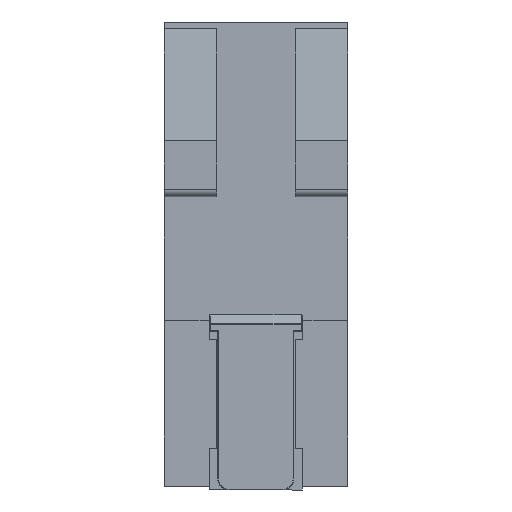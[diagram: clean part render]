
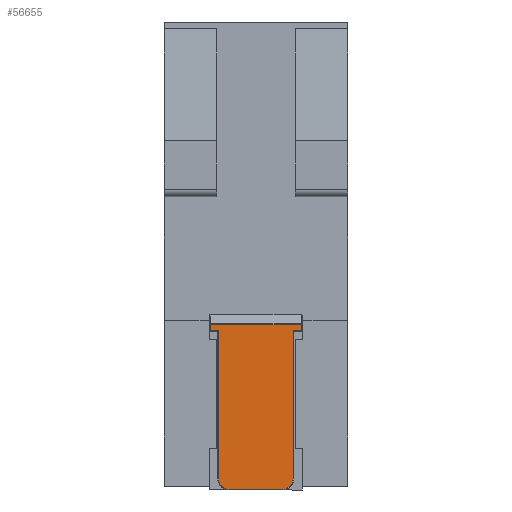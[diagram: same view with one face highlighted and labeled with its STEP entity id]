
A CAD part, left-side view. The second image highlights one B-rep face of the part: STEP entity #56655.
In plain terms, the highlighted planar face has unit normal (-1, 0, 0) as drawn and (0, 1, 0) by its records, which use the part's own axes.
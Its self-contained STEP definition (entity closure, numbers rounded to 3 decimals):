
#268 = CARTESIAN_POINT ( 'NONE',  ( 9.95, 5., 42.5 ) ) ;
#2877 = CARTESIAN_POINT ( 'NONE',  ( -12.15, 5., 44.206 ) ) ;
#3549 = VERTEX_POINT ( 'NONE', #60133 ) ;
#4268 = DIRECTION ( 'NONE',  ( 0., -1., 0. ) ) ;
#5672 = FACE_OUTER_BOUND ( 'NONE', #55004, .T. ) ;
#6671 = DIRECTION ( 'NONE',  ( 0., 0., 1. ) ) ;
#7783 = CARTESIAN_POINT ( 'NONE',  ( 9.95, 5., 3. ) ) ;
#9084 = VERTEX_POINT ( 'NONE', #54608 ) ;
#9314 = DIRECTION ( 'NONE',  ( 0., 0., -1. ) ) ;
#9492 = VECTOR ( 'NONE', #66858, 1000. ) ;
#9709 = CARTESIAN_POINT ( 'NONE',  ( 12.15, 5., 42.5 ) ) ;
#9967 = DIRECTION ( 'NONE',  ( -0.707, 0., -0.707 ) ) ;
#11128 = CARTESIAN_POINT ( 'NONE',  ( 12.15, 5., 44.206 ) ) ;
#11405 = CIRCLE ( 'NONE', #64725, 2.8 ) ;
#12865 = VECTOR ( 'NONE', #6671, 1000. ) ;
#12954 = EDGE_CURVE ( 'NONE', #56874, #3549, #51718, .T. ) ;
#13393 = ORIENTED_EDGE ( 'NONE', *, *, #43184, .F. ) ;
#13814 = CARTESIAN_POINT ( 'NONE',  ( -9.95, 5., 42.5 ) ) ;
#17744 = EDGE_CURVE ( 'NONE', #27331, #32291, #51514, .T. ) ;
#21473 = DIRECTION ( 'NONE',  ( 0.707, 0., -0.707 ) ) ;
#21811 = CARTESIAN_POINT ( 'NONE',  ( -7.15, 5., 0.2 ) ) ;
#22111 = LINE ( 'NONE', #45273, #9492 ) ;
#23396 = DIRECTION ( 'NONE',  ( 1., 0., 0. ) ) ;
#26331 = CARTESIAN_POINT ( 'NONE',  ( -9.95, 5., 3. ) ) ;
#27331 = VERTEX_POINT ( 'NONE', #51437 ) ;
#29747 = AXIS2_PLACEMENT_3D ( 'NONE', #63694, #53057, #65164 ) ;
#30661 = EDGE_CURVE ( 'NONE', #46734, #27331, #33603, .T. ) ;
#30701 = CARTESIAN_POINT ( 'NONE',  ( 12.15, 5., 42.5 ) ) ;
#31729 = LINE ( 'NONE', #2877, #53570 ) ;
#32291 = VERTEX_POINT ( 'NONE', #73738 ) ;
#32541 = VECTOR ( 'NONE', #57086, 1000. ) ;
#33035 = EDGE_CURVE ( 'NONE', #3549, #45260, #31729, .T. ) ;
#33603 = LINE ( 'NONE', #21811, #72690 ) ;
#34473 = DIRECTION ( 'NONE',  ( 0., 0., -1. ) ) ;
#34693 = ORIENTED_EDGE ( 'NONE', *, *, #67112, .F. ) ;
#35070 = EDGE_CURVE ( 'NONE', #36465, #67925, #69298, .T. ) ;
#35760 = AXIS2_PLACEMENT_3D ( 'NONE', #62782, #68443, #21473 ) ;
#36465 = VERTEX_POINT ( 'NONE', #13814 ) ;
#37943 = EDGE_CURVE ( 'NONE', #32291, #9084, #65429, .T. ) ;
#38134 = ORIENTED_EDGE ( 'NONE', *, *, #12954, .F. ) ;
#39628 = EDGE_CURVE ( 'NONE', #9084, #58365, #52232, .T. ) ;
#41100 = DIRECTION ( 'NONE',  ( -1., 0., 0. ) ) ;
#42826 = EDGE_CURVE ( 'NONE', #58365, #56874, #73744, .T. ) ;
#43184 = EDGE_CURVE ( 'NONE', #45260, #36465, #22111, .T. ) ;
#43873 = CARTESIAN_POINT ( 'NONE',  ( -7.15, 5., 0.2 ) ) ;
#44862 = CARTESIAN_POINT ( 'NONE',  ( -7.15, 5., 3. ) ) ;
#45260 = VERTEX_POINT ( 'NONE', #74097 ) ;
#45273 = CARTESIAN_POINT ( 'NONE',  ( -12.15, 5., 42.5 ) ) ;
#45724 = DIRECTION ( 'NONE',  ( 1., 0., 0. ) ) ;
#46734 = VERTEX_POINT ( 'NONE', #43873 ) ;
#46995 = ORIENTED_EDGE ( 'NONE', *, *, #42826, .F. ) ;
#49067 = ORIENTED_EDGE ( 'NONE', *, *, #37943, .F. ) ;
#51437 = CARTESIAN_POINT ( 'NONE',  ( 7.15, 5., 0.2 ) ) ;
#51514 = CIRCLE ( 'NONE', #35760, 2.8 ) ;
#51718 = LINE ( 'NONE', #11128, #69969 ) ;
#52232 = LINE ( 'NONE', #268, #63689 ) ;
#52905 = ORIENTED_EDGE ( 'NONE', *, *, #30661, .F. ) ;
#53057 = DIRECTION ( 'NONE',  ( 0., 1., 0. ) ) ;
#53570 = VECTOR ( 'NONE', #9314, 1000. ) ;
#53738 = ORIENTED_EDGE ( 'NONE', *, *, #33035, .F. ) ;
#54608 = CARTESIAN_POINT ( 'NONE',  ( 9.95, 5., 42.5 ) ) ;
#55004 = EDGE_LOOP ( 'NONE', ( #53738, #38134, #46995, #70353, #49067, #60660, #52905, #34693, #73034, #13393 ) ) ;
#56655 = ADVANCED_FACE ( 'NONE', ( #5672 ), #64066, .T. ) ;
#56874 = VERTEX_POINT ( 'NONE', #70625 ) ;
#57086 = DIRECTION ( 'NONE',  ( 0., 0., 1. ) ) ;
#58365 = VERTEX_POINT ( 'NONE', #30701 ) ;
#60133 = CARTESIAN_POINT ( 'NONE',  ( -12.15, 5., 44.206 ) ) ;
#60660 = ORIENTED_EDGE ( 'NONE', *, *, #17744, .F. ) ;
#62782 = CARTESIAN_POINT ( 'NONE',  ( 7.15, 5., 3. ) ) ;
#63255 = CARTESIAN_POINT ( 'NONE',  ( -9.95, 5., 42.5 ) ) ;
#63689 = VECTOR ( 'NONE', #23396, 1000. ) ;
#63694 = CARTESIAN_POINT ( 'NONE',  ( 0., 5., 0. ) ) ;
#64066 = PLANE ( 'NONE',  #29747 ) ;
#64725 = AXIS2_PLACEMENT_3D ( 'NONE', #44862, #4268, #9967 ) ;
#65164 = DIRECTION ( 'NONE',  ( 0., 0., 1. ) ) ;
#65429 = LINE ( 'NONE', #7783, #12865 ) ;
#66858 = DIRECTION ( 'NONE',  ( 1., 0., 0. ) ) ;
#67112 = EDGE_CURVE ( 'NONE', #67925, #46734, #11405, .T. ) ;
#67925 = VERTEX_POINT ( 'NONE', #26331 ) ;
#68443 = DIRECTION ( 'NONE',  ( 0., -1., 0. ) ) ;
#69298 = LINE ( 'NONE', #63255, #69520 ) ;
#69520 = VECTOR ( 'NONE', #34473, 1000. ) ;
#69969 = VECTOR ( 'NONE', #41100, 1000. ) ;
#70353 = ORIENTED_EDGE ( 'NONE', *, *, #39628, .F. ) ;
#70625 = CARTESIAN_POINT ( 'NONE',  ( 12.15, 5., 44.206 ) ) ;
#72690 = VECTOR ( 'NONE', #45724, 1000. ) ;
#73034 = ORIENTED_EDGE ( 'NONE', *, *, #35070, .F. ) ;
#73738 = CARTESIAN_POINT ( 'NONE',  ( 9.95, 5., 3. ) ) ;
#73744 = LINE ( 'NONE', #9709, #32541 ) ;
#74097 = CARTESIAN_POINT ( 'NONE',  ( -12.15, 5., 42.5 ) ) ;
